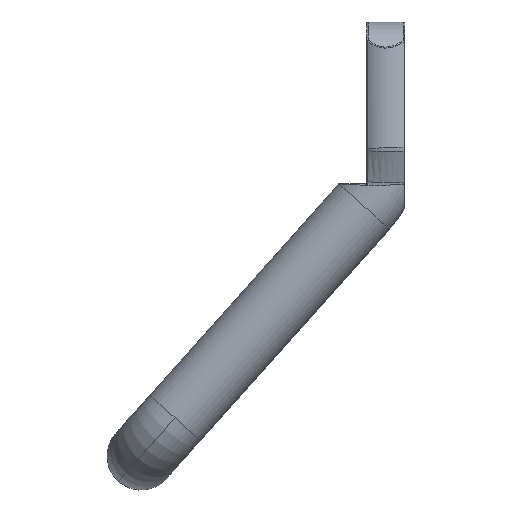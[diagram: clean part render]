
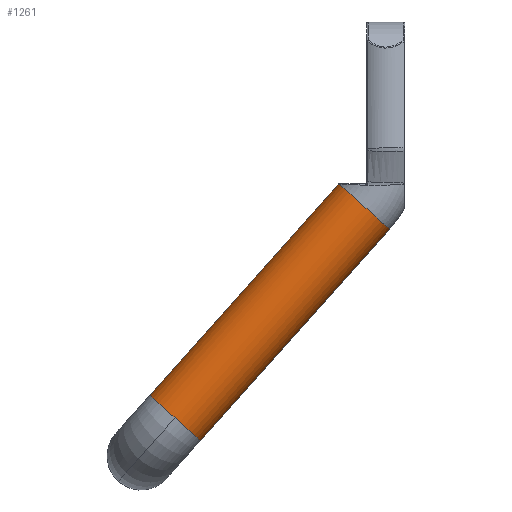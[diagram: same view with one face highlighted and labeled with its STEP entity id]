
A CAD part, left-side view. The second image highlights one B-rep face of the part: STEP entity #1261.
In plain terms, the highlighted cylindrical face has radius 4 mm (diameter 8 mm), a partial arc.
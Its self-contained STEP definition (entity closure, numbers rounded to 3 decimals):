
#27 = AXIS2_PLACEMENT_3D ( 'NONE', #3100, #2726, #1922 ) ;
#83 = CARTESIAN_POINT ( 'NONE',  ( -104., -3.997, 4.474 ) ) ;
#90 = DIRECTION ( 'NONE',  ( 1., 0., 0. ) ) ;
#99 = VERTEX_POINT ( 'NONE', #3904 ) ;
#170 = EDGE_CURVE ( 'NONE', #2354, #1755, #3136, .T. ) ;
#245 = VECTOR ( 'NONE', #2841, 1000. ) ;
#301 = VECTOR ( 'NONE', #2054, 1000. ) ;
#355 = LINE ( 'NONE', #2436, #245 ) ;
#394 = ORIENTED_EDGE ( 'NONE', *, *, #4193, .T. ) ;
#417 = EDGE_CURVE ( 'NONE', #2395, #99, #4780, .T. ) ;
#553 = CARTESIAN_POINT ( 'NONE',  ( -100., -6.98, 1.81 ) ) ;
#626 = CARTESIAN_POINT ( 'NONE',  ( -100., -26.207, 29.335 ) ) ;
#670 = ORIENTED_EDGE ( 'NONE', *, *, #417, .F. ) ;
#782 = CARTESIAN_POINT ( 'NONE',  ( -100.912, -23.303, 31.93 ) ) ;
#1026 = DIRECTION ( 'NONE',  ( 0., 0.666, -0.746 ) ) ;
#1127 = ORIENTED_EDGE ( 'NONE', *, *, #3137, .T. ) ;
#1261 = ADVANCED_FACE ( 'NONE', ( #4215 ), #2056, .T. ) ;
#1339 = VERTEX_POINT ( 'NONE', #4954 ) ;
#1614 = CARTESIAN_POINT ( 'NONE',  ( -100.308, -23.165, 31.933 ) ) ;
#1755 = VERTEX_POINT ( 'NONE', #83 ) ;
#1922 = DIRECTION ( 'NONE',  ( 1., 0., 0. ) ) ;
#2044 = DIRECTION ( 'NONE',  ( 0., -0.666, 0.746 ) ) ;
#2054 = DIRECTION ( 'NONE',  ( 0., 0.666, -0.746 ) ) ;
#2056 = CYLINDRICAL_SURFACE ( 'NONE', #3993, 4. ) ;
#2283 = CIRCLE ( 'NONE', #3908, 4. ) ;
#2294 = EDGE_LOOP ( 'NONE', ( #2421, #670, #394, #1127, #4224, #4621 ) ) ;
#2354 = VERTEX_POINT ( 'NONE', #3950 ) ;
#2395 = VERTEX_POINT ( 'NONE', #782 ) ;
#2421 = ORIENTED_EDGE ( 'NONE', *, *, #4260, .F. ) ;
#2436 = CARTESIAN_POINT ( 'NONE',  ( -100., -29.19, 26.67 ) ) ;
#2540 = VERTEX_POINT ( 'NONE', #553 ) ;
#2726 = DIRECTION ( 'NONE',  ( 0., -0.666, 0.746 ) ) ;
#2763 =( BOUNDED_CURVE ( )  B_SPLINE_CURVE ( 3, ( #3615, #4017, #1614, #4427 ),
 .UNSPECIFIED., .F., .F. ) 
 B_SPLINE_CURVE_WITH_KNOTS ( ( 4, 4 ),
 ( 6.053, 6.283 ),
 .UNSPECIFIED. ) 
 CURVE ( )  GEOMETRIC_REPRESENTATION_ITEM ( )  RATIONAL_B_SPLINE_CURVE ( ( 1., 0.996, 0.996, 1. ) ) 
 REPRESENTATION_ITEM ( '' )  );
#2841 = DIRECTION ( 'NONE',  ( 0., 0.666, -0.746 ) ) ;
#3100 = CARTESIAN_POINT ( 'NONE',  ( -100., -3.997, 4.474 ) ) ;
#3136 = CIRCLE ( 'NONE', #27, 4. ) ;
#3137 = EDGE_CURVE ( 'NONE', #1339, #2354, #4433, .T. ) ;
#3185 = EDGE_CURVE ( 'NONE', #1755, #2540, #2283, .T. ) ;
#3516 = AXIS2_PLACEMENT_3D ( 'NONE', #4470, #4485, #90 ) ;
#3615 = CARTESIAN_POINT ( 'NONE',  ( -100.912, -23.303, 31.93 ) ) ;
#3904 = CARTESIAN_POINT ( 'NONE',  ( -100., -29.19, 26.67 ) ) ;
#3908 = AXIS2_PLACEMENT_3D ( 'NONE', #4468, #2044, #4875 ) ;
#3950 = CARTESIAN_POINT ( 'NONE',  ( -100., -1.014, 7.139 ) ) ;
#3993 = AXIS2_PLACEMENT_3D ( 'NONE', #626, #1026, #5012 ) ;
#4017 = CARTESIAN_POINT ( 'NONE',  ( -100.613, -23.211, 31.932 ) ) ;
#4193 = EDGE_CURVE ( 'NONE', #2395, #1339, #2763, .T. ) ;
#4215 = FACE_OUTER_BOUND ( 'NONE', #2294, .T. ) ;
#4224 = ORIENTED_EDGE ( 'NONE', *, *, #170, .T. ) ;
#4260 = EDGE_CURVE ( 'NONE', #99, #2540, #355, .T. ) ;
#4427 = CARTESIAN_POINT ( 'NONE',  ( -100., -23.165, 31.933 ) ) ;
#4433 = LINE ( 'NONE', #4901, #301 ) ;
#4468 = CARTESIAN_POINT ( 'NONE',  ( -100., -3.997, 4.474 ) ) ;
#4470 = CARTESIAN_POINT ( 'NONE',  ( -100., -26.207, 29.335 ) ) ;
#4485 = DIRECTION ( 'NONE',  ( 0., -0.666, 0.746 ) ) ;
#4621 = ORIENTED_EDGE ( 'NONE', *, *, #3185, .T. ) ;
#4780 = CIRCLE ( 'NONE', #3516, 4. ) ;
#4875 = DIRECTION ( 'NONE',  ( 1., 0., 0. ) ) ;
#4901 = CARTESIAN_POINT ( 'NONE',  ( -100., -23.224, 32. ) ) ;
#4954 = CARTESIAN_POINT ( 'NONE',  ( -100., -23.165, 31.933 ) ) ;
#5012 = DIRECTION ( 'NONE',  ( 0., 0.746, 0.666 ) ) ;
